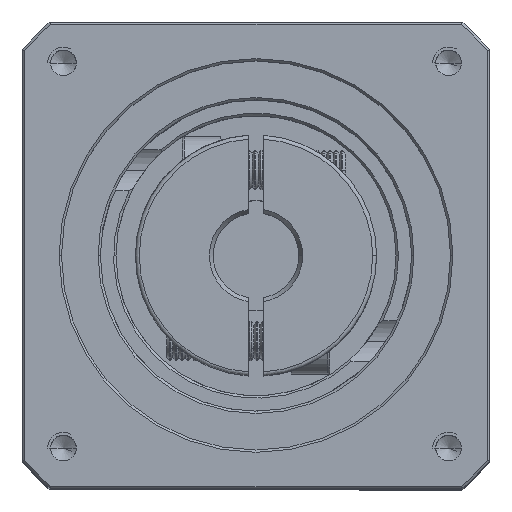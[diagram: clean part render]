
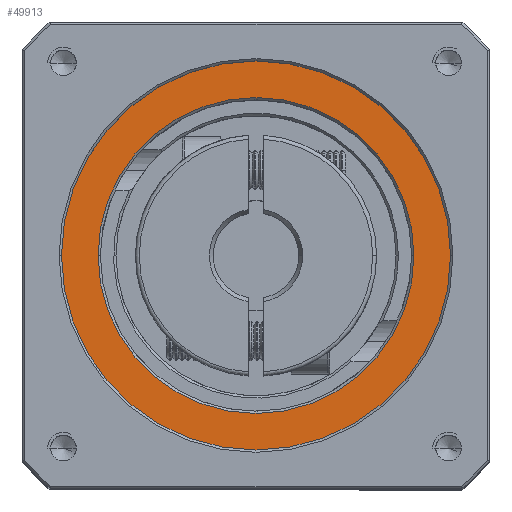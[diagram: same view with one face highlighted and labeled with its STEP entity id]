
A CAD part, top view. The second image highlights one B-rep face of the part: STEP entity #49913.
In plain terms, the highlighted planar face has unit normal (0, 0, 1).
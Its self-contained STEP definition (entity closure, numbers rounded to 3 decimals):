
#1132 = CARTESIAN_POINT ( 'NONE',  ( -91.425, 14.93, 33.07 ) ) ;
#1504 = DIRECTION ( 'NONE',  ( 0., 0., 1. ) ) ;
#3651 = CARTESIAN_POINT ( 'NONE',  ( -66.425, 14.93, 33.07 ) ) ;
#5653 = DIRECTION ( 'NONE',  ( 0., 0., -1. ) ) ;
#5762 = AXIS2_PLACEMENT_3D ( 'NONE', #50142, #5653, #57626 ) ;
#11094 = DIRECTION ( 'NONE',  ( 1., 0., 0. ) ) ;
#14395 = EDGE_CURVE ( 'NONE', #25597, #36230, #82101, .T. ) ;
#16764 = CARTESIAN_POINT ( 'NONE',  ( -41.425, 14.93, 33.07 ) ) ;
#18252 = DIRECTION ( 'NONE',  ( 0., 0., -1. ) ) ;
#21660 = AXIS2_PLACEMENT_3D ( 'NONE', #62741, #18252, #70300 ) ;
#25597 = VERTEX_POINT ( 'NONE', #37022 ) ;
#30304 = CIRCLE ( 'NONE', #74441, 25. ) ;
#36230 = VERTEX_POINT ( 'NONE', #38248 ) ;
#37022 = CARTESIAN_POINT ( 'NONE',  ( -86.725, 14.93, 33.07 ) ) ;
#37091 = CARTESIAN_POINT ( 'NONE',  ( -66.425, 14.93, 33.07 ) ) ;
#37496 = ORIENTED_EDGE ( 'NONE', *, *, #79942, .T. ) ;
#38248 = CARTESIAN_POINT ( 'NONE',  ( -46.125, 14.93, 33.07 ) ) ;
#39289 = CIRCLE ( 'NONE', #5762, 20.3 ) ;
#44523 = DIRECTION ( 'NONE',  ( 1., 0., 0. ) ) ;
#45918 = CARTESIAN_POINT ( 'NONE',  ( -66.425, 14.93, 33.07 ) ) ;
#47383 = VERTEX_POINT ( 'NONE', #1132 ) ;
#49913 = ADVANCED_FACE ( 'NONE', ( #69883, #87264 ), #70288, .T. ) ;
#50142 = CARTESIAN_POINT ( 'NONE',  ( -66.425, 14.93, 33.07 ) ) ;
#50673 = EDGE_LOOP ( 'NONE', ( #37496, #53732 ) ) ;
#52515 = AXIS2_PLACEMENT_3D ( 'NONE', #37091, #89058, #44523 ) ;
#53423 = DIRECTION ( 'NONE',  ( 1., 0., 0. ) ) ;
#53732 = ORIENTED_EDGE ( 'NONE', *, *, #63201, .T. ) ;
#55469 = CIRCLE ( 'NONE', #52515, 25. ) ;
#55579 = DIRECTION ( 'NONE',  ( 0., 0., 1. ) ) ;
#57626 = DIRECTION ( 'NONE',  ( 1., 0., 0. ) ) ;
#62741 = CARTESIAN_POINT ( 'NONE',  ( -66.425, 14.93, 33.07 ) ) ;
#63201 = EDGE_CURVE ( 'NONE', #47383, #92175, #30304, .T. ) ;
#69883 = FACE_BOUND ( 'NONE', #77586, .T. ) ;
#70288 = PLANE ( 'NONE',  #84877 ) ;
#70300 = DIRECTION ( 'NONE',  ( 1., 0., 0. ) ) ;
#74441 = AXIS2_PLACEMENT_3D ( 'NONE', #45918, #1504, #53423 ) ;
#77586 = EDGE_LOOP ( 'NONE', ( #87120, #94131 ) ) ;
#79942 = EDGE_CURVE ( 'NONE', #92175, #47383, #55469, .T. ) ;
#82101 = CIRCLE ( 'NONE', #21660, 20.3 ) ;
#84877 = AXIS2_PLACEMENT_3D ( 'NONE', #3651, #55579, #11094 ) ;
#87120 = ORIENTED_EDGE ( 'NONE', *, *, #92950, .T. ) ;
#87264 = FACE_OUTER_BOUND ( 'NONE', #50673, .T. ) ;
#89058 = DIRECTION ( 'NONE',  ( 0., 0., 1. ) ) ;
#92175 = VERTEX_POINT ( 'NONE', #16764 ) ;
#92950 = EDGE_CURVE ( 'NONE', #36230, #25597, #39289, .T. ) ;
#94131 = ORIENTED_EDGE ( 'NONE', *, *, #14395, .T. ) ;
